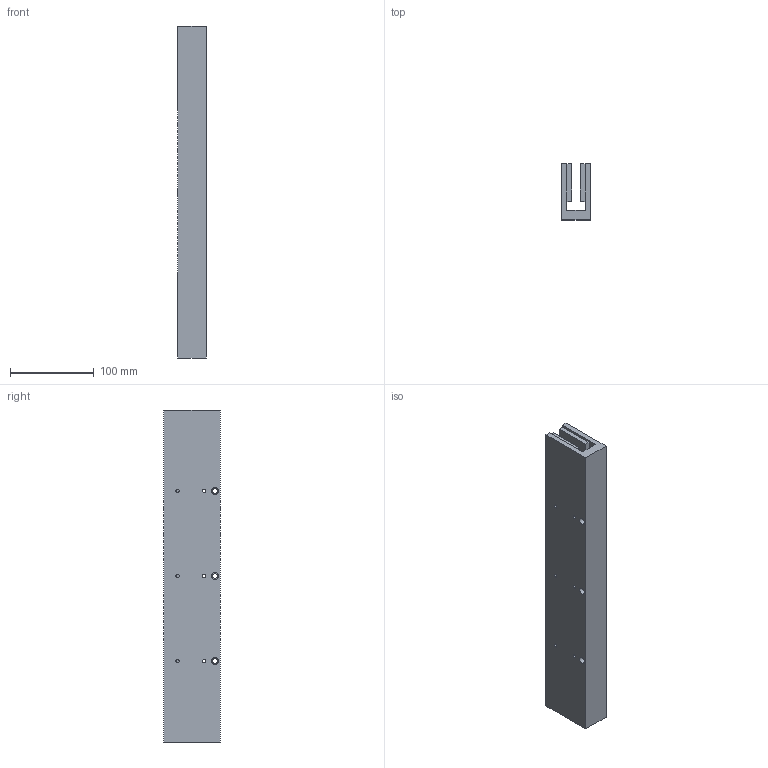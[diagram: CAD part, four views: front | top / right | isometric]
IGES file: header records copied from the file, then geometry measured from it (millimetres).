
Global section: file name: No Iges File Name specified; native system: Autodesk Inventor 2009; preprocessor: AutoDesk Inventor Iges Exporter R2009; author: je17857; date: 20091116.111453; units: inch
Bounding box: 34.29 x 67.31 x 396.24 mm (x, y, z)
Volume: 593794.8 mm3; surface area: 149783.2 mm2
Topology: 1 solids, 1 shells, 194 faces, 462 edges, 308 vertices
Faces by surface type: plane 146, bspline 48
